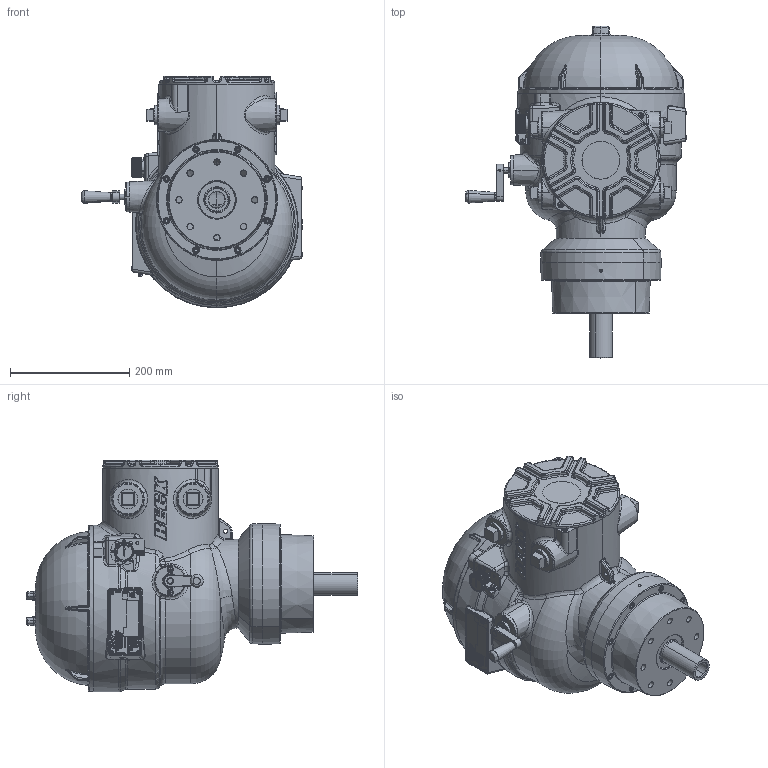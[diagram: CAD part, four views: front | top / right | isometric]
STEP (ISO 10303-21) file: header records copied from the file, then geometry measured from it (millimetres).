
FILE_DESCRIPTION (( 'STEP AP214' ), '1' );
FILE_NAME ('18-5700-10_Long-Shaft.STEP', '2022-09-14T13:18:25', ( '' ), ( '' ), 'SwSTEP 2.0', 'SolidWorks 2019', '' );
FILE_SCHEMA (( 'AUTOMOTIVE_DESIGN' ));
Length unit declared in the file: inch
Products named in the file (1): 18-5700-10_Long-Shaft
Bounding box: 370.33 x 556.82 x 388.43 mm (x, y, z)
Surface area: 652176.5 mm2 (no closed solid volume)
Topology: 0 solids, 281 shells, 1913 faces, 11552 edges, 9801 vertices
Faces by surface type: plane 631, cylinder 447, bspline 354, torus 229, cone 176, sphere 76
Entity records: 185692 total; most frequent: CARTESIAN_POINT 81152, ORIENTED_EDGE 14646, DIRECTION 13691, EDGE_CURVE 11540, VERTEX_POINT 9801, VECTOR 5725, LINE 5725, AXIS2_PLACEMENT_3D 3983
